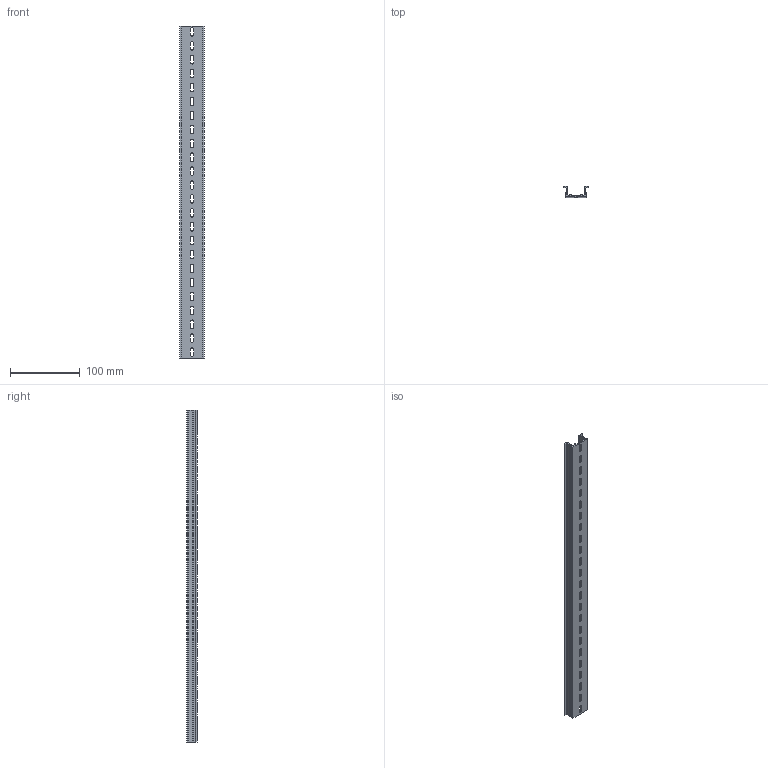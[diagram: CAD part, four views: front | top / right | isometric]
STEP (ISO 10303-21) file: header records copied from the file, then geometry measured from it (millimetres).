
FILE_DESCRIPTION(/* description */ (''),/* implementation_level */ '2;1');
FILE_NAME(/* name */ '22648-(TKB KD-24)HP 3D.stp',/* time_stamp */ '2024-12-05T14:05:20+09:00',/* author */ ('usercadg104'),/* organization */ (''),/* preprocessor_version */ 'ST-DEVELOPER v19.2',/* originating_system */ 'Autodesk Inventor 2023',/* authorisation */ '');
FILE_SCHEMA (('CONFIG_CONTROL_DESIGN'));
Length unit declared in the file: millimetre
Products named in the file (1): TKB KD-3(林)
Bounding box: 35 x 15 x 477 mm (x, y, z)
Volume: 55801.5 mm3; surface area: 64537.2 mm2
Topology: 1 solids, 1 shells, 136 faces, 402 edges, 268 vertices
Faces by surface type: plane 84, cylinder 52
Entity records: 4689 total; most frequent: CARTESIAN_POINT 807, ORIENTED_EDGE 804, DIRECTION 780, EDGE_CURVE 402, LINE 298, VECTOR 298, VERTEX_POINT 268, AXIS2_PLACEMENT_3D 241
